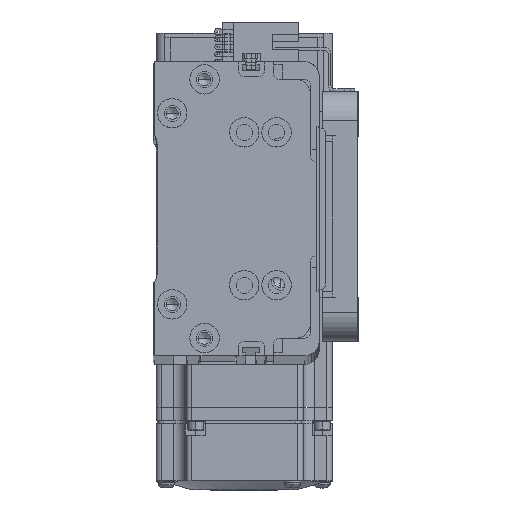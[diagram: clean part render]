
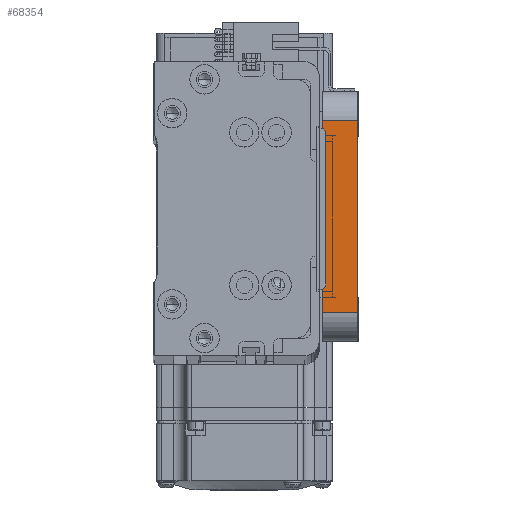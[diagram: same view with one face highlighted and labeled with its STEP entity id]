
A CAD part, top view. The second image highlights one B-rep face of the part: STEP entity #68354.
In plain terms, the highlighted planar face has unit normal (0, 0, 1) as drawn and (-1, 0, 0) by its records, which use the part's own axes.
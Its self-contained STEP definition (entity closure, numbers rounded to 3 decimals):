
#3031 = VECTOR ( 'NONE', #49114, 1000. ) ;
#3259 = ORIENTED_EDGE ( 'NONE', *, *, #70037, .T. ) ;
#3613 = CARTESIAN_POINT ( 'NONE',  ( -55., -32.5, 12. ) ) ;
#3768 = EDGE_LOOP ( 'NONE', ( #68334, #73587, #18947, #3259 ) ) ;
#5572 = CARTESIAN_POINT ( 'NONE',  ( -55., 32.5, 0. ) ) ;
#6499 = VERTEX_POINT ( 'NONE', #61228 ) ;
#6792 = EDGE_CURVE ( 'NONE', #6499, #18943, #25769, .T. ) ;
#8045 = CARTESIAN_POINT ( 'NONE',  ( -55., -42.5, 0. ) ) ;
#8410 = LINE ( 'NONE', #8045, #44611 ) ;
#11744 = LINE ( 'NONE', #14643, #40707 ) ;
#12030 = DIRECTION ( 'NONE',  ( 1., 0., 0. ) ) ;
#13176 = DIRECTION ( 'NONE',  ( 0., -1., 0. ) ) ;
#14643 = CARTESIAN_POINT ( 'NONE',  ( -55., -32.5, 12. ) ) ;
#17626 = CARTESIAN_POINT ( 'NONE',  ( -55., -32.5, 0. ) ) ;
#18063 = PLANE ( 'NONE',  #37656 ) ;
#18943 = VERTEX_POINT ( 'NONE', #3613 ) ;
#18947 = ORIENTED_EDGE ( 'NONE', *, *, #6792, .F. ) ;
#20251 = LINE ( 'NONE', #20271, #3031 ) ;
#20271 = CARTESIAN_POINT ( 'NONE',  ( -55., 32.5, 12. ) ) ;
#25769 = LINE ( 'NONE', #47818, #70107 ) ;
#37656 = AXIS2_PLACEMENT_3D ( 'NONE', #46882, #12030, #58491 ) ;
#40707 = VECTOR ( 'NONE', #44001, 1000. ) ;
#42734 = DIRECTION ( 'NONE',  ( 0., -1., 0. ) ) ;
#42841 = EDGE_CURVE ( 'NONE', #52503, #18943, #11744, .T. ) ;
#44001 = DIRECTION ( 'NONE',  ( 0., 0., 1. ) ) ;
#44611 = VECTOR ( 'NONE', #42734, 1000. ) ;
#46882 = CARTESIAN_POINT ( 'NONE',  ( -55., -42.5, 12. ) ) ;
#47818 = CARTESIAN_POINT ( 'NONE',  ( -55., -42.5, 12. ) ) ;
#49114 = DIRECTION ( 'NONE',  ( 0., 0., -1. ) ) ;
#52503 = VERTEX_POINT ( 'NONE', #17626 ) ;
#52557 = FACE_OUTER_BOUND ( 'NONE', #3768, .T. ) ;
#54653 = EDGE_CURVE ( 'NONE', #70300, #52503, #8410, .T. ) ;
#58491 = DIRECTION ( 'NONE',  ( 0., 0., -1. ) ) ;
#61228 = CARTESIAN_POINT ( 'NONE',  ( -55., 32.5, 12. ) ) ;
#68334 = ORIENTED_EDGE ( 'NONE', *, *, #54653, .T. ) ;
#68354 = ADVANCED_FACE ( 'NONE', ( #52557 ), #18063, .F. ) ;
#70037 = EDGE_CURVE ( 'NONE', #6499, #70300, #20251, .T. ) ;
#70107 = VECTOR ( 'NONE', #13176, 1000. ) ;
#70300 = VERTEX_POINT ( 'NONE', #5572 ) ;
#73587 = ORIENTED_EDGE ( 'NONE', *, *, #42841, .T. ) ;
